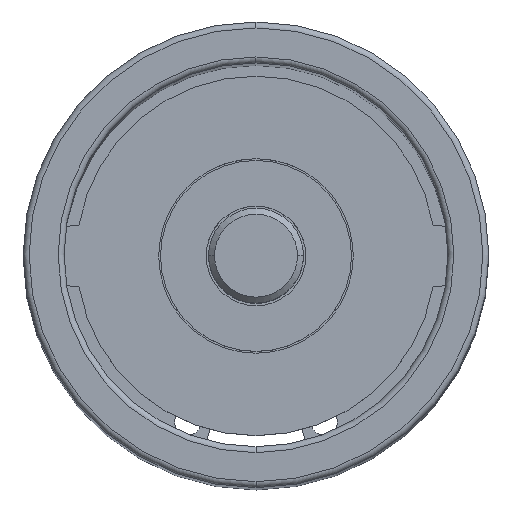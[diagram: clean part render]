
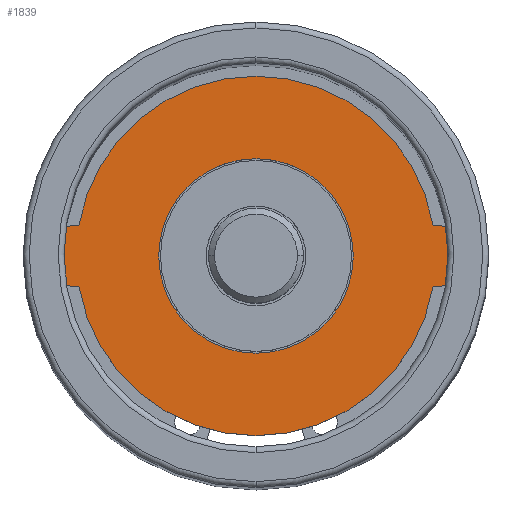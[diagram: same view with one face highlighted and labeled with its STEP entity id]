
A CAD part, top view. The second image highlights one B-rep face of the part: STEP entity #1839.
In plain terms, the highlighted planar face has unit normal (0, 0, 1).
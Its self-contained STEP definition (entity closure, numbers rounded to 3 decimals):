
#1701=CARTESIAN_POINT('',(8.2,0.,0.));
#1702=VERTEX_POINT('',#1701);
#1718=CARTESIAN_POINT('',(-8.2,0.,0.0));
#1719=VERTEX_POINT('',#1718);
#1726=CARTESIAN_POINT('',(0.0,0.,0.0));
#1727=DIRECTION('',(0.0,0.0,-1.0));
#1728=DIRECTION('',(1.0,0.0,0.0));
#1729=AXIS2_PLACEMENT_3D('',#1726,#1727,#1728);
#1730=CIRCLE('',#1729,8.2);
#1731=EDGE_CURVE('',#1702,#1719,#1730,.T.);
#1742=CARTESIAN_POINT('',(0.0,0.,0.0));
#1743=DIRECTION('',(0.0,0.0,-1.0));
#1744=DIRECTION('',(1.0,0.0,0.0));
#1745=AXIS2_PLACEMENT_3D('',#1742,#1743,#1744);
#1746=CIRCLE('',#1745,8.2);
#1747=EDGE_CURVE('',#1719,#1702,#1746,.T.);
#1767=CARTESIAN_POINT('',(-14.927,2.592,0.));
#1768=VERTEX_POINT('',#1767);
#1784=CARTESIAN_POINT('',(-14.927,-2.592,0.));
#1785=VERTEX_POINT('',#1784);
#1792=CARTESIAN_POINT('',(-15.125,0.,0.));
#1793=DIRECTION('',(0.0,0.0,-1.0));
#1794=DIRECTION('',(1.0,0.0,0.0));
#1795=AXIS2_PLACEMENT_3D('',#1792,#1793,#1794);
#1796=CIRCLE('',#1795,2.6);
#1797=EDGE_CURVE('',#1785,#1768,#1796,.T.);
#1802=CARTESIAN_POINT('',(0.0,0.,0.));
#1803=DIRECTION('',(0.0,0.0,1.0));
#1804=DIRECTION('',(1.0,0.0,0.0));
#1805=AXIS2_PLACEMENT_3D('',#1802,#1803,#1804);
#1806=PLANE('',#1805);
#1807=CARTESIAN_POINT('',(14.927,-2.592,0.));
#1808=VERTEX_POINT('',#1807);
#1809=CARTESIAN_POINT('',(0.0,0.,0.));
#1810=DIRECTION('',(0.0,0.0,-1.0));
#1811=DIRECTION('',(1.0,0.0,0.0));
#1812=AXIS2_PLACEMENT_3D('',#1809,#1810,#1811);
#1813=CIRCLE('',#1812,15.15);
#1814=EDGE_CURVE('',#1808,#1785,#1813,.T.);
#1815=ORIENTED_EDGE('',*,*,#1814,.F.);
#1816=CARTESIAN_POINT('',(14.927,2.592,0.));
#1817=VERTEX_POINT('',#1816);
#1818=CARTESIAN_POINT('',(15.125,0.,0.));
#1819=DIRECTION('',(0.0,0.0,-1.0));
#1820=DIRECTION('',(1.0,0.0,0.0));
#1821=AXIS2_PLACEMENT_3D('',#1818,#1819,#1820);
#1822=CIRCLE('',#1821,2.6);
#1823=EDGE_CURVE('',#1817,#1808,#1822,.T.);
#1824=ORIENTED_EDGE('',*,*,#1823,.F.);
#1825=CARTESIAN_POINT('',(0.0,0.,0.));
#1826=DIRECTION('',(0.0,0.0,-1.0));
#1827=DIRECTION('',(1.0,0.0,0.0));
#1828=AXIS2_PLACEMENT_3D('',#1825,#1826,#1827);
#1829=CIRCLE('',#1828,15.15);
#1830=EDGE_CURVE('',#1768,#1817,#1829,.T.);
#1831=ORIENTED_EDGE('',*,*,#1830,.F.);
#1832=ORIENTED_EDGE('',*,*,#1797,.F.);
#1833=EDGE_LOOP('',(#1815,#1824,#1831,#1832));
#1834=FACE_OUTER_BOUND('',#1833,.T.);
#1835=ORIENTED_EDGE('',*,*,#1731,.T.);
#1836=ORIENTED_EDGE('',*,*,#1747,.T.);
#1837=EDGE_LOOP('',(#1835,#1836));
#1838=FACE_BOUND('',#1837,.T.);
#1839=ADVANCED_FACE('',(#1834,#1838),#1806,.T.);
